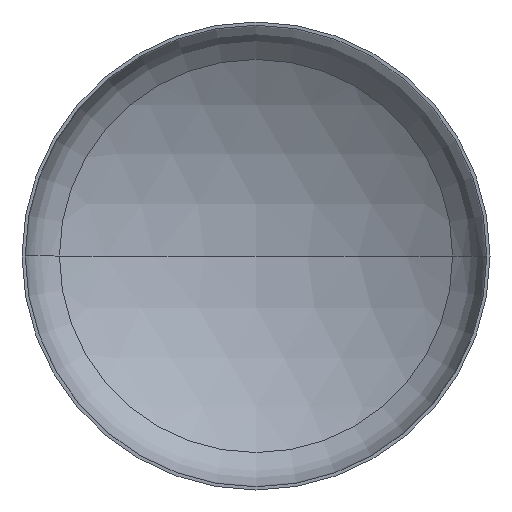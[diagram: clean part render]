
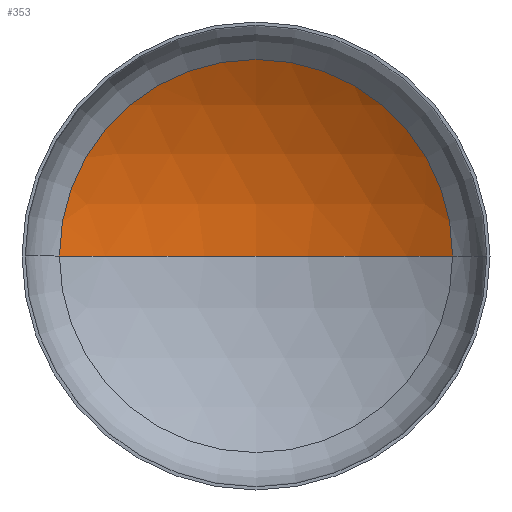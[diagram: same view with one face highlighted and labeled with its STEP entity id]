
A CAD part, front view. The second image highlights one B-rep face of the part: STEP entity #353.
In plain terms, the highlighted spherical face has radius 1040 mm.
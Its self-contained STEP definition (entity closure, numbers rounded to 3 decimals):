
#2 = AXIS2_PLACEMENT_3D ( 'NONE', #335, #231, #276 ) ;
#6 = AXIS2_PLACEMENT_3D ( 'NONE', #115, #303, #298 ) ;
#7 = AXIS2_PLACEMENT_3D ( 'NONE', #179, #180, #256 ) ;
#11 = EDGE_LOOP ( 'NONE', ( #89, #133, #79 ) ) ;
#38 = AXIS2_PLACEMENT_3D ( 'NONE', #148, #150, #173 ) ;
#79 = ORIENTED_EDGE ( 'NONE', *, *, #354, .T. ) ;
#84 = VERTEX_POINT ( 'NONE', #311 ) ;
#89 = ORIENTED_EDGE ( 'NONE', *, *, #338, .F. ) ;
#102 = FACE_OUTER_BOUND ( 'NONE', #11, .T. ) ;
#115 = CARTESIAN_POINT ( 'NONE',  ( 0., -684.926, 0. ) ) ;
#128 = VERTEX_POINT ( 'NONE', #208 ) ;
#133 = ORIENTED_EDGE ( 'NONE', *, *, #361, .T. ) ;
#135 = VERTEX_POINT ( 'NONE', #316 ) ;
#148 = CARTESIAN_POINT ( 'NONE',  ( 0., -684.926, 0. ) ) ;
#150 = DIRECTION ( 'NONE',  ( 0., 0., 1. ) ) ;
#173 = DIRECTION ( 'NONE',  ( 1., 0., 0. ) ) ;
#179 = CARTESIAN_POINT ( 'NONE',  ( 0., 200.22, 0. ) ) ;
#180 = DIRECTION ( 'NONE',  ( 0., -1., 0. ) ) ;
#208 = CARTESIAN_POINT ( 'NONE',  ( 0., 355.074, 0. ) ) ;
#231 = DIRECTION ( 'NONE',  ( 0., 0., -1. ) ) ;
#256 = DIRECTION ( 'NONE',  ( 1., 0., 0. ) ) ;
#257 = CIRCLE ( 'NONE', #7, 546. ) ;
#276 = DIRECTION ( 'NONE',  ( -1., 0., 0. ) ) ;
#298 = DIRECTION ( 'NONE',  ( -1., 0., 0. ) ) ;
#303 = DIRECTION ( 'NONE',  ( 0., 0., -1. ) ) ;
#311 = CARTESIAN_POINT ( 'NONE',  ( 546., 200.22, 0. ) ) ;
#316 = CARTESIAN_POINT ( 'NONE',  ( -546., 200.22, 0. ) ) ;
#318 = CIRCLE ( 'NONE', #2, 1040. ) ;
#335 = CARTESIAN_POINT ( 'NONE',  ( 0., -684.926, 0. ) ) ;
#338 = EDGE_CURVE ( 'NONE', #128, #135, #394, .T. ) ;
#353 = ADVANCED_FACE ( 'NONE', ( #102 ), #383, .F. ) ;
#354 = EDGE_CURVE ( 'NONE', #84, #135, #257, .T. ) ;
#361 = EDGE_CURVE ( 'NONE', #128, #84, #318, .T. ) ;
#383 = SPHERICAL_SURFACE ( 'NONE', #6, 1040. ) ;
#394 = CIRCLE ( 'NONE', #38, 1040. ) ;
